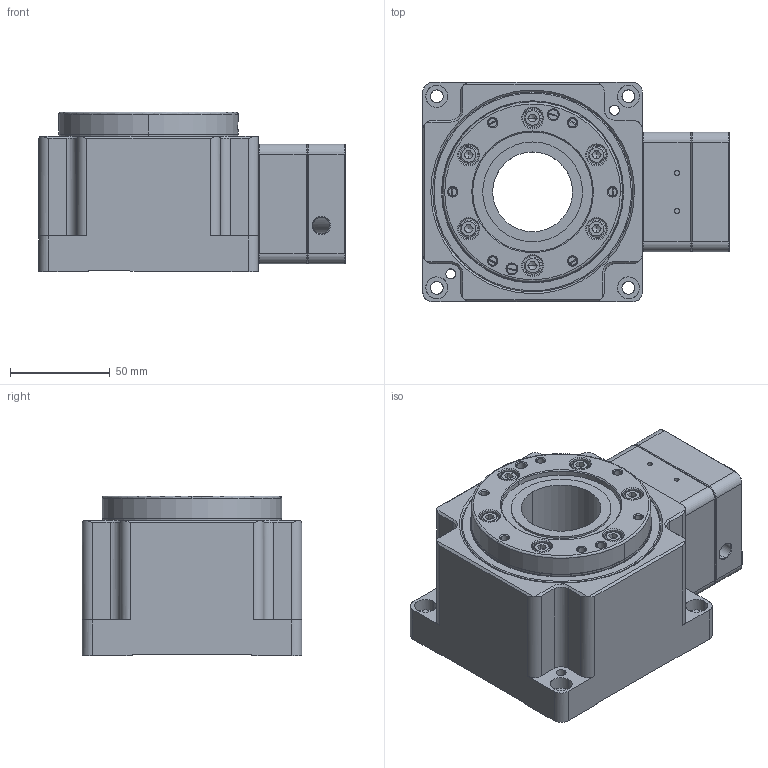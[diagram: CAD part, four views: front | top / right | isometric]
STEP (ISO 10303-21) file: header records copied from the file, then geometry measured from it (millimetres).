
FILE_DESCRIPTION (( 'STEP AP214' ), '1' );
FILE_NAME ('RT110-10-N 14-50-70-M5.STEP', '2024-02-02T09:08:53', ( '微软用户' ), ( '微软中国' ), 'SwSTEP 2.0', 'SolidWorks 2018', '' );
FILE_SCHEMA (( 'AUTOMOTIVE_DESIGN' ));
Length unit declared in the file: millimetre
Products named in the file (1): RT110-10-N 14-50-70-M5
Bounding box: 153.5 x 110 x 80 mm (x, y, z)
Surface area: 102170 mm2 (no closed solid volume)
Topology: 0 solids, 33 shells, 664 faces, 1915 edges, 1262 vertices
Faces by surface type: plane 244, cylinder 210, cone 152, bspline 50, torus 8
Entity records: 28410 total; most frequent: CARTESIAN_POINT 11790, ORIENTED_EDGE 3436, DIRECTION 3248, EDGE_CURVE 1880, VERTEX_POINT 1262, AXIS2_PLACEMENT_3D 1183, LINE 882, VECTOR 882
